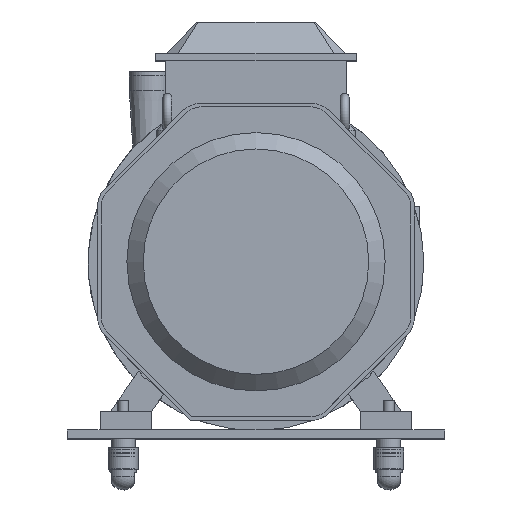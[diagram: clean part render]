
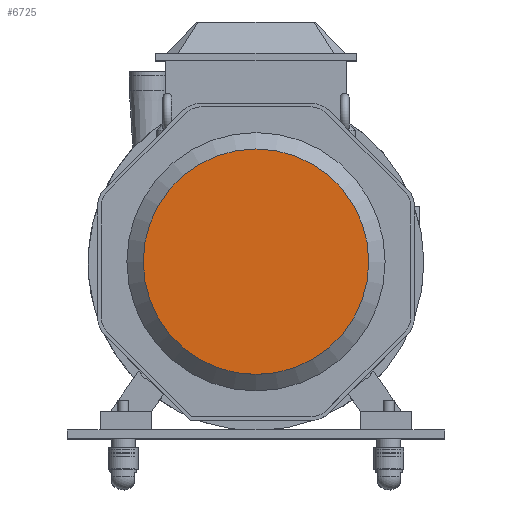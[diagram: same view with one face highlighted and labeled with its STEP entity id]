
A CAD part, top view. The second image highlights one B-rep face of the part: STEP entity #6725.
In plain terms, the highlighted planar face has unit normal (0, 0, 1).
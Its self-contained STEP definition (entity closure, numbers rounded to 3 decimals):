
#6709=CARTESIAN_POINT('',(0.,0.,1054.0));
#6710=DIRECTION('',(0.0,0.0,-1.0));
#6711=DIRECTION('',(-1.0,0.0,0.0));
#6712=AXIS2_PLACEMENT_3D('',#6709,#6710,#6711);
#6713=PLANE('',#6712);
#6714=CARTESIAN_POINT('',(151.077,0.,1054.0));
#6715=VERTEX_POINT('',#6714);
#6716=CARTESIAN_POINT('',(0.,0.,1054.0));
#6717=DIRECTION('',(0.0,0.0,-1.0));
#6718=DIRECTION('',(-1.0,0.0,0.0));
#6719=AXIS2_PLACEMENT_3D('',#6716,#6717,#6718);
#6720=CIRCLE('',#6719,151.077);
#6721=EDGE_CURVE('',#6715,#6715,#6720,.T.);
#6722=ORIENTED_EDGE('',*,*,#6721,.F.);
#6723=EDGE_LOOP('',(#6722));
#6724=FACE_OUTER_BOUND('',#6723,.T.);
#6725=ADVANCED_FACE('',(#6724),#6713,.F.);
